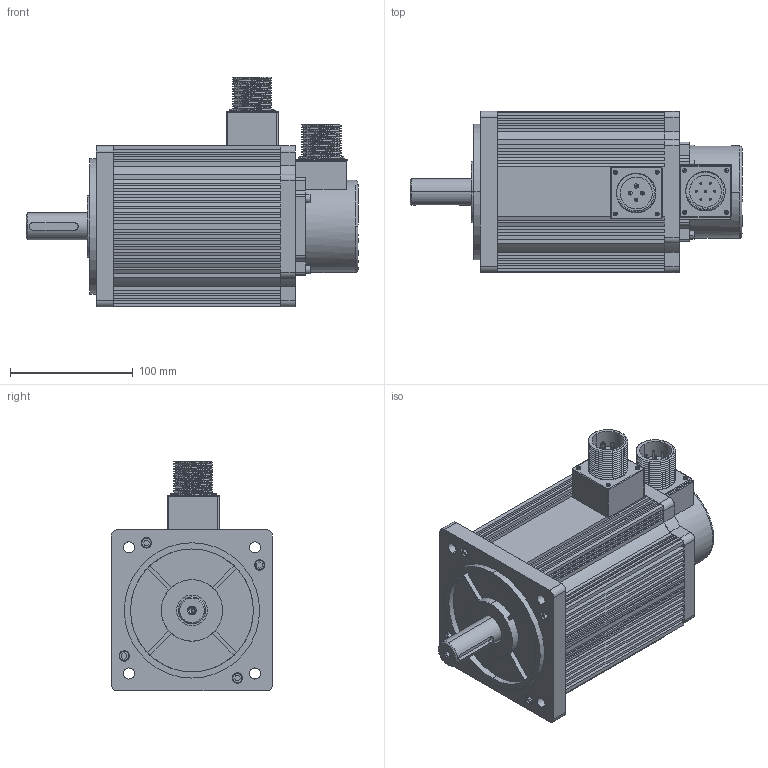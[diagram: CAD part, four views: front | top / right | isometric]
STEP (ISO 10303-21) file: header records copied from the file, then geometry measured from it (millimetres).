
FILE_DESCRIPTION (( 'STEP AP203' ), '1' );
FILE_NAME ('ACM13010H2F.STEP', '2021-04-02T11:30:44', ( '謂矨栲' ), ( 'Microsoft' ), 'SwSTEP 2.0', 'SolidWorks 2014', '' );
FILE_SCHEMA (( 'CONFIG_CONTROL_DESIGN' ));
Length unit declared in the file: millimetre
Products named in the file (1): ACM13010H2F
Bounding box: 270 x 131.1 x 187 mm (x, y, z)
Volume: 2739646.5 mm3; surface area: 276154.1 mm2
Topology: 3 solids, 3 shells, 1066 faces, 3032 edges, 2014 vertices
Faces by surface type: plane 638, cylinder 345, bspline 37, torus 26, sphere 14, cone 6
Entity records: 45307 total; most frequent: CARTESIAN_POINT 18492, ORIENTED_EDGE 5996, DIRECTION 4964, EDGE_CURVE 2998, VERTEX_POINT 2000, VECTOR 1826, LINE 1826, AXIS2_PLACEMENT_3D 1569
